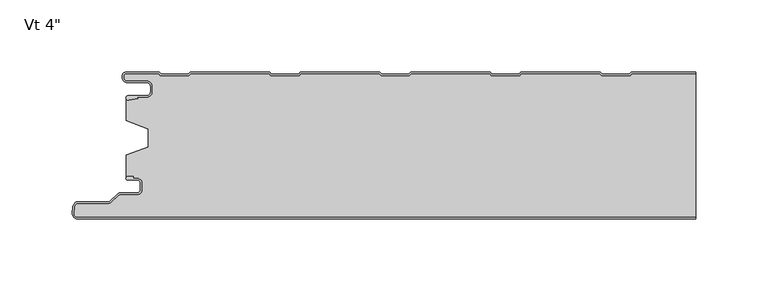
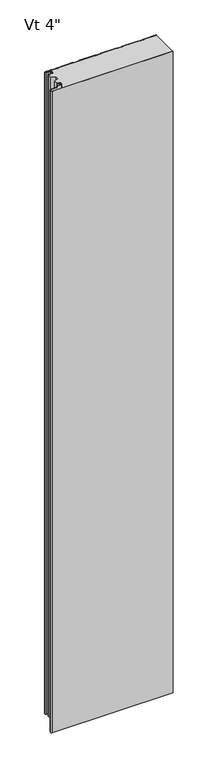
"""IFC4 building model written with IfcOpenShell, lengths in millimetres: plate geometry."""

from ifc_helpers import new_model, si_unit, point, frame, frame_2d, origin, origin_with_axes, place, context, project, spatial, polyline, circle_curve, trimmed, segment, composite_curve, outline, extrude, source, transform, mapped, element, save
from ifc_brep_helpers import plane_surface, cylinder_surface, revolved_surface, advanced_brep


def plate_7318fa28(model_context):
    return source(origin(), model_context, "Body", "SolidModel", [
        extrude(outline(composite_curve([segment(polyline([(-196.9639401, -1.03e-05), (-173.8991777, -1.03e-05), (-172.6989573, -1.2002307), (-153.8919247, -1.2002307), (-152.6916939, 0.0), (-97.6993404, 0.0), (-96.4991097, -1.2002307), (-77.6920771, -1.2002307), (-76.4918463, 0.0), (-21.5159312, 0.0), (-20.3157004, -1.2002307), (-1.5086678, -1.2002307), (-0.3084371, 0.0), (54.667478, 0.0), (55.8677088, -1.2002307), (74.6747414, -1.2002307), (75.8749721, 0.0), (130.8673256, 0.0), (132.0675564, -1.2002307), (150.874589, -1.2002307), (152.0748197, 0.0), (196.6137654, 0.0), (196.6137654, -1.0), (152.4890333, -1.0), (151.2888025, -2.2002307), (131.6533428, -2.2002307), (130.4531121, -1.0), (76.2891857, -1.0), (75.0889549, -2.2002307), (55.4534952, -2.2002307), (54.2532645, -1.0), (0.1057765, -1.0), (-1.0944543, -2.2002307), (-20.729914, -2.2002307), (-21.9301447, -1.0), (-76.0776328, -1.0), (-77.2778635, -2.2002307), (-96.9133232, -2.2002307), (-98.113554, -1.0), (-152.2774804, -1.0), (-153.4777111, -2.2002307), (-173.1131708, -2.2002307), (-174.3133912, -1.0000103), (-196.9839768, -1.0000103)]), True, "CONTINUOUS"), segment(trimmed(circle_curve(frame_2d((-197.0487242, -2.3984828)), 1.3999705), [point((-196.9839768, -1.0000103))], [point((-198.4486947, -2.3984828))], True, "CARTESIAN"), True, "CONTINUOUS"), segment(polyline([(-198.4486947, -2.3984828), (-198.4486947, -3.9515996)]), True, "CONTINUOUS"), segment(trimmed(circle_curve(frame_2d((-196.2386394, -3.9515996)), 2.2100553), [point((-198.4486947, -3.9515996))], [point((-196.2386394, -6.1616549))], True, "CARTESIAN"), True, "CONTINUOUS"), segment(polyline([(-196.2386394, -6.1616549), (-182.7094114, -6.1616549)]), True, "CONTINUOUS"), segment(trimmed(circle_curve(frame_2d((-182.7094114, -9.881641)), 3.7199861), [point((-182.7094114, -6.1616549))], [point((-178.9894252, -9.881641))], False, "CARTESIAN"), True, "CONTINUOUS"), segment(polyline([(-178.9894252, -9.881641), (-178.9894252, -13.5282389)]), True, "CONTINUOUS"), segment(trimmed(circle_curve(frame_2d((-182.7094216, -13.5282389)), 3.7199964), [point((-178.9894252, -13.5282389))], [point((-182.7094216, -17.2482353))], False, "CARTESIAN"), True, "CONTINUOUS"), segment(polyline([(-182.7094216, -17.2482353), (-189.0545396, -17.2482353), (-188.8919338, -18.1704184), (-195.1454629, -19.2730843)]), True, "CONTINUOUS"), segment(trimmed(circle_curve(frame_2d((-195.4101029, -17.7722363)), 1.524001), [point((-195.1454629, -19.2730843))], [point((-195.4101029, -16.2482353))], False, "CARTESIAN"), True, "CONTINUOUS"), segment(polyline([(-195.4101029, -16.2482353), (-182.7094216, -16.2482353)]), True, "CONTINUOUS"), segment(trimmed(circle_curve(frame_2d((-182.7094216, -13.5282389)), 2.7199964), [point((-182.7094216, -16.2482353))], [point((-179.9894252, -13.5282389))], True, "CARTESIAN"), True, "CONTINUOUS"), segment(polyline([(-179.9894252, -13.5282389), (-179.9894252, -9.881641)]), True, "CONTINUOUS"), segment(trimmed(circle_curve(frame_2d((-182.7094114, -9.881641)), 2.7199861), [point((-179.9894252, -9.881641))], [point((-182.7094114, -7.1616549))], True, "CARTESIAN"), True, "CONTINUOUS"), segment(polyline([(-182.7094114, -7.1616549), (-196.2386394, -7.1616549)]), True, "CONTINUOUS"), segment(trimmed(circle_curve(frame_2d((-196.2386394, -3.9515996)), 3.2100553), [point((-196.2386394, -7.1616549))], [point((-199.4486948, -3.9515996))], False, "CARTESIAN"), True, "CONTINUOUS"), segment(polyline([(-199.4486948, -3.9515996), (-199.4486947, -2.3984828)]), True, "CONTINUOUS"), segment(trimmed(circle_curve(frame_2d((-197.0487242, -2.3984828)), 2.3999705), [point((-199.4486947, -2.3984828))], [point((-196.9639401, -1.03e-05))], False, "CARTESIAN"), True, "CONTINUOUS")], self_intersect=False)), origin_with_axes(), (0.0, 0.0, 1.0), 2400.0),
        extrude(outline(composite_curve([segment(polyline([(-195.7329864, -72.1060333), (-191.9745857, -72.1060333), (-191.9745857, -73.5045169), (-189.2754693, -73.5045169)]), True, "CONTINUOUS"), segment(trimmed(circle_curve(frame_2d((-189.2754693, -76.8545168)), 3.3499999), [point((-189.2754693, -73.5045169))], [point((-185.9254694, -76.8545168))], False, "CARTESIAN"), True, "CONTINUOUS"), segment(polyline([(-185.9254694, -76.8545168), (-185.9254694, -81.2545166)]), True, "CONTINUOUS"), segment(trimmed(circle_curve(frame_2d((-189.2754693, -81.2545166)), 3.3499999), [point((-185.9254694, -81.2545166))], [point((-189.2754693, -84.6045165))], False, "CARTESIAN"), True, "CONTINUOUS"), segment(polyline([(-189.2754693, -84.6045165), (-201.0863815, -84.6045165)]), True, "CONTINUOUS"), segment(trimmed(circle_curve(frame_2d((-201.0863815, -86.3045165)), 1.7), [point((-201.0863815, -84.6045165))], [point((-202.288463, -85.102435))], True, "CARTESIAN"), True, "CONTINUOUS"), segment(polyline([(-202.288463, -85.102435), (-207.029022, -89.8429939)]), True, "CONTINUOUS"), segment(trimmed(circle_curve(frame_2d((-208.8674996, -88.0045163)), 2.6), [point((-207.029022, -89.8429939))], [point((-208.8674996, -90.6045163))], False, "CARTESIAN"), True, "CONTINUOUS"), segment(polyline([(-208.8674996, -90.6045163), (-229.8742569, -90.6045163)]), True, "CONTINUOUS"), segment(trimmed(circle_curve(frame_2d((-229.8742569, -93.3045163)), 2.7), [point((-229.8742569, -90.6045163))], [point((-232.563964, -93.0689835))], True, "CARTESIAN"), True, "CONTINUOUS"), segment(polyline([(-232.563964, -93.0689835), (-232.9796492, -97.8159721)]), True, "CONTINUOUS"), segment(trimmed(circle_curve(frame_2d((-230.4287597, -98.0393488)), 2.5606512), [point((-232.9796492, -97.8159721))], [point((-230.4287597, -100.6))], True, "CARTESIAN"), True, "CONTINUOUS"), segment(polyline([(-230.4287597, -100.6), (196.6137654, -100.6), (196.6137654, -101.6), (-230.4287597, -101.6)]), True, "CONTINUOUS"), segment(trimmed(circle_curve(frame_2d((-230.4287597, -98.0393488)), 3.5606512), [point((-230.4287597, -101.6))], [point((-233.975837, -97.7287377))], False, "CARTESIAN"), True, "CONTINUOUS"), segment(polyline([(-233.975837, -97.7287377), (-233.5601518, -92.9817491)]), True, "CONTINUOUS"), segment(trimmed(circle_curve(frame_2d((-229.8742569, -93.3045163)), 3.7), [point((-233.5601518, -92.9817491))], [point((-229.8742569, -89.6045163))], False, "CARTESIAN"), True, "CONTINUOUS"), segment(polyline([(-229.8742569, -89.6045163), (-208.8674996, -89.6045163)]), True, "CONTINUOUS"), segment(trimmed(circle_curve(frame_2d((-208.8674996, -88.0045163)), 1.6), [point((-208.8674996, -89.6045163))], [point((-207.7361288, -89.1358871))], True, "CARTESIAN"), True, "CONTINUOUS"), segment(polyline([(-207.7361288, -89.1358871), (-202.9955698, -84.3953282)]), True, "CONTINUOUS"), segment(trimmed(circle_curve(frame_2d((-201.0863815, -86.3045165)), 2.7), [point((-202.9955698, -84.3953282))], [point((-201.0863815, -83.6045165))], False, "CARTESIAN"), True, "CONTINUOUS"), segment(polyline([(-201.0863815, -83.6045165), (-189.2754693, -83.6045165)]), True, "CONTINUOUS"), segment(trimmed(circle_curve(frame_2d((-189.2754693, -81.2545166)), 2.3499999), [point((-189.2754693, -83.6045165))], [point((-186.9254694, -81.2545166))], True, "CARTESIAN"), True, "CONTINUOUS"), segment(polyline([(-186.9254694, -81.2545166), (-186.9254694, -76.8545168)]), True, "CONTINUOUS"), segment(trimmed(circle_curve(frame_2d((-189.2754693, -76.8545168)), 2.3499999), [point((-186.9254694, -76.8545168))], [point((-189.2754693, -74.5045169))], True, "CARTESIAN"), True, "CONTINUOUS"), segment(polyline([(-189.2754693, -74.5045169), (-195.7947883, -74.5045169)]), True, "CONTINUOUS"), segment(trimmed(circle_curve(frame_2d((-195.734501, -73.3060323)), 1.2), [point((-195.7947883, -74.5045169))], [point((-195.7329864, -72.1060333))], False, "CARTESIAN"), True, "CONTINUOUS")], self_intersect=False)), origin_with_axes(), (0.0, 0.0, 1.0), 2400.0),
        advanced_brep(
        [(-189.2754693, -73.5045169, 2400.0), (-185.9254694, -76.8545168, 2400.0), (-185.9254694, -81.2545166, 2400.0), (-189.2754693, -84.6045165, 2400.0), (-201.0863815, -84.6045165, 2400.0), (-202.288463, -85.102435, 2400.0), (-207.029022, -89.8429939, 2400.0), (-208.8674996, -90.6045163, 2400.0), (-229.8742569, -90.6045163, 2400.0), (-232.563964, -93.0689835, 2400.0), (-232.9796492, -97.8159721, 2400.0), (-230.4287597, -100.6, 2400.0), (196.6137654, -100.6, 2400.0), (196.6137654, -1.0, 2400.0), (152.4890333, -1.0, 2400.0), (151.2888025, -2.2002307, 2400.0), (131.6533428, -2.2002307, 2400.0), (130.4531121, -1.0, 2400.0), (76.2891857, -1.0, 2400.0), (75.0889549, -2.2002307, 2400.0), (55.4534952, -2.2002307, 2400.0), (54.2532645, -1.0, 2400.0), (0.1057765, -1.0, 2400.0), (-1.0944543, -2.2002307, 2400.0), (-20.729914, -2.2002307, 2400.0), (-21.9301447, -1.0, 2400.0), (-76.0776328, -1.0, 2400.0), (-77.2778635, -2.2002307, 2400.0), (-96.9133232, -2.2002307, 2400.0), (-98.113554, -1.0, 2400.0), (-152.2774804, -1.0, 2400.0), (-153.4777111, -2.2002307, 2400.0), (-173.1131708, -2.2002307, 2400.0), (-174.3133912, -1.0000103, 2400.0), (-196.9839768, -1.0000103, 2400.0), (-198.4486947, -2.3984828, 2400.0), (-198.4486947, -3.9515996, 2400.0), (-196.2386394, -6.1616549, 2400.0), (-182.7094114, -6.1616549, 2400.0), (-178.9894252, -9.881641, 2400.0), (-178.9894252, -13.5282389, 2400.0), (-182.7094216, -17.2482353, 2400.0), (-189.0545396, -17.2482353, 2400.0), (-188.8919338, -18.1704184, 2400.0), (-195.1454629, -19.2730843, 2400.0), (-196.5999998, -18.7244571, 2400.0), (-196.5999998, -33.5050578, 2400.0), (-181.6020466, -39.1301019, 2400.0), (-181.588281, -51.7686066, 2400.0), (-196.5999998, -57.3928342, 2400.0), (-196.5999998, -72.4748213, 2400.0), (-195.7329864, -72.1060333, 2400.0), (-191.9745857, -72.1060333, 2400.0), (-191.9745857, -73.5045169, 2400.0), (-189.2754693, -73.5045169, 0.0), (-191.9745857, -73.5045169, 0.0), (-191.9745857, -72.1060333, 0.0), (-195.7329864, -72.1060333, 0.0), (-196.5999998, -72.4748213, 0.0), (-196.5999998, -57.3928342, 0.0), (-181.6020466, -51.7686066, 0.0), (-181.588281, -39.1301019, 0.0), (-196.5999998, -33.5050578, 0.0), (-196.5999998, -18.7244571, 0.0), (-195.1454629, -19.2730843, 0.0), (-188.8919338, -18.1704184, 0.0), (-189.0545396, -17.2482353, 0.0), (-182.7094216, -17.2482353, 0.0), (-178.9894252, -13.5282389, 0.0), (-178.9894252, -9.881641, 0.0), (-182.7094114, -6.1616549, 0.0), (-196.2386394, -6.1616549, 0.0), (-198.4486948, -3.9515996, 0.0), (-198.4486947, -2.3984828, 0.0), (-196.9839768, -1.0000103, 0.0), (-174.3133912, -1.0000103, 0.0), (-173.1131708, -2.2002307, 0.0), (-153.4777111, -2.2002307, 0.0), (-152.2774804, -1.0, 0.0), (-98.113554, -1.0, 0.0), (-96.9133232, -2.2002307, 0.0), (-77.2778635, -2.2002307, 0.0), (-76.0776328, -1.0, 0.0), (-21.9301447, -1.0, 0.0), (-20.729914, -2.2002307, 0.0), (-1.0944543, -2.2002307, 0.0), (0.1057765, -1.0, 0.0), (54.2532645, -1.0, 0.0), (55.4534952, -2.2002307, 0.0), (75.0889549, -2.2002307, 0.0), (76.2891857, -1.0, 0.0), (130.4531121, -1.0, 0.0), (131.6533428, -2.2002307, 0.0), (151.2888025, -2.2002307, 0.0), (152.4890333, -1.0, 0.0), (196.6137654, -1.0, 0.0), (196.6137654, -100.6, 0.0), (-230.4287597, -100.6, 0.0), (-232.9796492, -97.8159721, 0.0), (-232.563964, -93.0689835, 0.0), (-229.8742569, -90.6045163, 0.0), (-208.8674996, -90.6045163, 0.0), (-207.029022, -89.8429939, 0.0), (-202.288463, -85.102435, 0.0), (-201.0863815, -84.6045165, 0.0), (-189.2754693, -84.6045165, 0.0), (-185.9254694, -81.2545166, 0.0), (-185.9254694, -76.8545168, 0.0)],
        [
            (0, 1, circle_curve(frame((-189.2754693, -76.8545168, 2400.0), z_axis=(0.0, 0.0, -1.0), x_axis=(-1.0, 0.0, 0.0)), 3.3499999)),
            (1, 2),
            (2, 3, circle_curve(frame((-189.2754693, -81.2545166, 2400.0), z_axis=(0.0, 0.0, -1.0), x_axis=(-1.0, 0.0, 0.0)), 3.3499999)),
            (3, 4),
            (4, 5, circle_curve(frame((-201.0863815, -86.3045165, 2400.0), z_axis=(0.0, 0.0, 1.0), x_axis=(-1.0, 0.0, 0.0)), 1.7)),
            (5, 6),
            (6, 7, circle_curve(frame((-208.8674996, -88.0045163, 2400.0), z_axis=(0.0, 0.0, -1.0), x_axis=(-1.0, 0.0, 0.0)), 2.6)),
            (7, 8),
            (8, 9, circle_curve(frame((-229.8742569, -93.3045163, 2400.0), z_axis=(0.0, 0.0, 1.0), x_axis=(-1.0, 0.0, 0.0)), 2.7)),
            (9, 10),
            (10, 11, circle_curve(frame((-230.4287597, -98.0393488, 2400.0), z_axis=(0.0, 0.0, 1.0), x_axis=(-1.0, 0.0, 0.0)), 2.5606512)),
            (11, 12),
            (12, 13),
            (13, 14),
            (14, 15),
            (15, 16),
            (16, 17),
            (17, 18),
            (18, 19),
            (19, 20),
            (20, 21),
            (21, 22),
            (22, 23),
            (23, 24),
            (24, 25),
            (25, 26),
            (26, 27),
            (27, 28),
            (28, 29),
            (29, 30),
            (30, 31),
            (31, 32),
            (32, 33),
            (33, 34),
            (34, 35, circle_curve(frame((-197.0487242, -2.3984828, 2400.0), z_axis=(0.0, 0.0, 1.0), x_axis=(-1.0, 0.0, 0.0)), 1.3999705)),
            (35, 36),
            (36, 37, circle_curve(frame((-196.2386394, -3.9515996, 2400.0), z_axis=(0.0, 0.0, 1.0), x_axis=(-1.0, 0.0, 0.0)), 2.2100553)),
            (37, 38),
            (38, 39, circle_curve(frame((-182.7094114, -9.881641, 2400.0), z_axis=(0.0, 0.0, -1.0), x_axis=(-1.0, 0.0, 0.0)), 3.7199861)),
            (39, 40),
            (40, 41, circle_curve(frame((-182.7094216, -13.5282389, 2400.0), z_axis=(0.0, 0.0, -1.0), x_axis=(-1.0, 0.0, 0.0)), 3.7199964)),
            (41, 42),
            (42, 43),
            (43, 44),
            (44, 45, circle_curve(frame((-195.4101029, -17.7722363, 2400.0), z_axis=(0.0, 0.0, -1.0), x_axis=(-1.0, 0.0, 0.0)), 1.524001)),
            (45, 46),
            (46, 47),
            (47, 48),
            (48, 49),
            (49, 50),
            (50, 51, circle_curve(frame((-195.734501, -73.3060323, 2400.0), z_axis=(0.0, 0.0, -1.0), x_axis=(-1.0, 0.0, 0.0)), 1.2)),
            (51, 52),
            (52, 53),
            (53, 0),
            (54, 55),
            (55, 56),
            (56, 57),
            (57, 58, circle_curve(frame((-195.734501, -73.3060323, 0.0), z_axis=(0.0, 0.0, 1.0), x_axis=(-1.0, 0.0, 0.0)), 1.2)),
            (58, 59),
            (59, 60),
            (60, 61),
            (61, 62),
            (62, 63),
            (63, 64, circle_curve(frame((-195.4101029, -17.7722363, 0.0), z_axis=(0.0, 0.0, 1.0), x_axis=(-1.0, 0.0, 0.0)), 1.524001)),
            (64, 65),
            (65, 66),
            (66, 67),
            (67, 68, circle_curve(frame((-182.7094216, -13.5282389, 0.0), z_axis=(0.0, 0.0, 1.0), x_axis=(-1.0, 0.0, 0.0)), 3.7199964)),
            (68, 69),
            (69, 70, circle_curve(frame((-182.7094114, -9.881641, 0.0), z_axis=(0.0, 0.0, 1.0), x_axis=(-1.0, 0.0, 0.0)), 3.7199861)),
            (70, 71),
            (71, 72, circle_curve(frame((-196.2386394, -3.9515996, 0.0), z_axis=(0.0, 0.0, -1.0), x_axis=(-1.0, 0.0, 0.0)), 2.2100553)),
            (72, 73),
            (73, 74, circle_curve(frame((-197.0487242, -2.3984828, 0.0), z_axis=(0.0, 0.0, -1.0), x_axis=(-1.0, 0.0, 0.0)), 1.3999705)),
            (74, 75),
            (75, 76),
            (76, 77),
            (77, 78),
            (78, 79),
            (79, 80),
            (80, 81),
            (81, 82),
            (82, 83),
            (83, 84),
            (84, 85),
            (85, 86),
            (86, 87),
            (87, 88),
            (88, 89),
            (89, 90),
            (90, 91),
            (91, 92),
            (92, 93),
            (93, 94),
            (94, 95),
            (95, 96),
            (96, 97),
            (97, 98, circle_curve(frame((-230.4287597, -98.0393488, 0.0), z_axis=(0.0, 0.0, -1.0), x_axis=(-1.0, 0.0, 0.0)), 2.5606512)),
            (98, 99),
            (99, 100, circle_curve(frame((-229.8742569, -93.3045163, 0.0), z_axis=(0.0, 0.0, -1.0), x_axis=(-1.0, 0.0, 0.0)), 2.7)),
            (100, 101),
            (101, 102, circle_curve(frame((-208.8674996, -88.0045163, 0.0), z_axis=(0.0, 0.0, 1.0), x_axis=(-1.0, 0.0, 0.0)), 2.6)),
            (102, 103),
            (103, 104, circle_curve(frame((-201.0863815, -86.3045165, 0.0), z_axis=(0.0, 0.0, -1.0), x_axis=(-1.0, 0.0, 0.0)), 1.7)),
            (104, 105),
            (105, 106, circle_curve(frame((-189.2754693, -81.2545166, 0.0), z_axis=(0.0, 0.0, 1.0), x_axis=(-1.0, 0.0, 0.0)), 3.3499999)),
            (106, 107),
            (107, 54, circle_curve(frame((-189.2754693, -76.8545168, 0.0), z_axis=(0.0, 0.0, 1.0), x_axis=(-1.0, 0.0, 0.0)), 3.3499999)),
            (48, 60),
            (59, 49),
            (58, 50),
            (2, 106),
            (105, 3),
            (1, 107),
            (104, 4),
            (103, 5),
            (6, 102),
            (101, 7),
            (100, 8),
            (99, 9),
            (10, 98),
            (97, 11),
            (96, 12),
            (57, 51),
            (52, 56),
            (55, 53),
            (54, 0),
            (38, 70),
            (69, 39),
            (37, 71),
            (36, 72),
            (35, 73),
            (34, 74),
            (33, 75),
            (32, 76),
            (31, 77),
            (30, 78),
            (29, 79),
            (28, 80),
            (27, 81),
            (26, 82),
            (25, 83),
            (24, 84),
            (23, 85),
            (22, 86),
            (21, 87),
            (20, 88),
            (19, 89),
            (18, 90),
            (17, 91),
            (16, 92),
            (15, 93),
            (14, 94),
            (13, 95),
            (46, 62),
            (61, 47),
            (45, 63),
            (44, 64),
            (43, 65),
            (42, 66),
            (41, 67),
            (40, 68),
        ],
        [
            plane_surface(frame((336.2637657, -100.6, 2400.0), z_axis=(0.0, 0.0, 1.0), x_axis=(0.0, -1.0, 0.0))),
            plane_surface(frame((336.2637657, -100.6, 0.0), z_axis=(0.0, 0.0, -1.0), x_axis=(0.0, -1.0, 0.0))),
            plane_surface(frame((-196.5999998, -57.3928342, 2400.0), z_axis=(-0.3511231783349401, 0.9363292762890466, 0.0), x_axis=(0.0, 0.0, -1.0))),
            plane_surface(frame((-196.5999998, -72.4748213, 2400.0), z_axis=(-1.0, 0.0, 0.0), x_axis=(0.0, 0.0, -1.0))),
            revolved_surface(polyline([(-192.6254692, -81.2545166, 0.0), (-192.6254692, -81.2545166, 2400.0)]), (-189.2754693, -81.2545166, 2400.0), (0.0, 0.0, -1.0)),
            plane_surface(frame((-185.9254694, -81.2545166, 2400.0), z_axis=(-1.0, 0.0, 0.0), x_axis=(0.0, 0.0, -1.0))),
            plane_surface(frame((-201.0863815, -84.6045165, 2400.0), z_axis=(0.0, 1.0, 0.0), x_axis=(0.0, 0.0, -1.0))),
            cylinder_surface(frame((-201.0863815, -86.3045165, 2400.0), z_axis=(0.0, 0.0, 1.0), x_axis=(-1.0, 0.0, 0.0)), 1.7),
            revolved_surface(polyline([(-211.4674996, -88.0045163, 0.0), (-211.4674996, -88.0045163, 2400.0)]), (-208.8674996, -88.0045163, 2400.0), (0.0, 0.0, -1.0)),
            plane_surface(frame((-207.029022, -89.8429939, 2400.0), z_axis=(-0.7071067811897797, 0.7071067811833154, 0.0), x_axis=(0.0, 0.0, -1.0))),
            plane_surface(frame((-229.8742569, -90.6045163, 2400.0), z_axis=(0.0, 1.0, 0.0), x_axis=(0.0, 0.0, -1.0))),
            cylinder_surface(frame((-229.8742569, -93.3045163, 2400.0), z_axis=(0.0, 0.0, 1.0), x_axis=(-1.0, 0.0, 0.0)), 2.7),
            cylinder_surface(frame((-230.4287597, -98.0393488, 2400.0), z_axis=(0.0, 0.0, 1.0), x_axis=(-1.0, 0.0, 0.0)), 2.5606512),
            plane_surface(frame((-232.9796492, -97.8159721, 2400.0), z_axis=(-0.9961878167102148, 0.08723436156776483, 0.0), x_axis=(0.0, 0.0, -1.0))),
            plane_surface(frame((824.4519051, -100.6, 2400.0), z_axis=(0.0, -1.0, 0.0), x_axis=(0.0, 0.0, -1.0))),
            revolved_surface(polyline([(-196.93450099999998, -73.3060323, 0.0), (-196.93450099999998, -73.3060323, 2400.0)]), (-195.734501, -73.3060323, 2400.0), (0.0, 0.0, -1.0)),
            plane_surface(frame((-191.9745857, -73.5045169, 2400.0), z_axis=(-1.0, 0.0, 0.0), x_axis=(0.0, 0.0, -1.0))),
            plane_surface(frame((-191.9745857, -72.1060333, 2400.0), z_axis=(0.0, -1.0, 0.0), x_axis=(0.0, 0.0, -1.0))),
            plane_surface(frame((-189.2754693, -73.5045169, 2400.0), z_axis=(0.0, -1.0, 0.0), x_axis=(0.0, 0.0, -1.0))),
            revolved_surface(polyline([(-192.6254692, -76.8545168, 0.0), (-192.6254692, -76.8545168, 2400.0)]), (-189.2754693, -76.8545168, 2400.0), (0.0, 0.0, -1.0)),
            revolved_surface(polyline([(-186.4293975, -9.881641, 0.0), (-186.4293975, -9.881641, 2400.0)]), (-182.7094114, -9.881641, 2400.0), (0.0, 0.0, -1.0)),
            plane_surface(frame((-182.7094114, -6.1616549, 2400.0), z_axis=(0.0, -1.0, 0.0), x_axis=(0.0, 0.0, -1.0))),
            cylinder_surface(frame((-196.2386394, -3.9515996, 2400.0), z_axis=(0.0, 0.0, 1.0), x_axis=(-1.0, 0.0, 0.0)), 2.2100553),
            plane_surface(frame((-198.4486947, -3.9515996, 2400.0), z_axis=(-1.0, 0.0, 0.0), x_axis=(0.0, 0.0, -1.0))),
            cylinder_surface(frame((-197.0487242, -2.3984828, 2400.0), z_axis=(0.0, 0.0, 1.0), x_axis=(-1.0, 0.0, 0.0)), 1.3999705),
            plane_surface(frame((-196.9839768, -1.0000103, 2400.0), z_axis=(0.0, 1.0, 0.0), x_axis=(0.0, 0.0, -1.0))),
            plane_surface(frame((-174.3133912, -1.0000103, 2400.0), z_axis=(0.7071067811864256, 0.7071067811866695, 0.0), x_axis=(0.0, 0.0, -1.0))),
            plane_surface(frame((-163.295441, -2.2002307, 2400.0), z_axis=(0.0, 1.0, 0.0), x_axis=(0.0, 0.0, -1.0))),
            plane_surface(frame((-153.4777111, -2.2002307, 2400.0), z_axis=(-0.7071067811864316, 0.7071067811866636, 0.0), x_axis=(0.0, 0.0, -1.0))),
            plane_surface(frame((-152.2774804, -1.0, 2400.0), z_axis=(0.0, 1.0, 0.0), x_axis=(0.0, 0.0, -1.0))),
            plane_surface(frame((-98.113554, -1.0, 2400.0), z_axis=(0.7071067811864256, 0.7071067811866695, 0.0), x_axis=(0.0, 0.0, -1.0))),
            plane_surface(frame((-87.0955934, -2.2002307, 2400.0), z_axis=(0.0, 1.0, 0.0), x_axis=(0.0, 0.0, -1.0))),
            plane_surface(frame((-77.2778635, -2.2002307, 2400.0), z_axis=(-0.7071067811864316, 0.7071067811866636, 0.0), x_axis=(0.0, 0.0, -1.0))),
            plane_surface(frame((-76.0776328, -1.0, 2400.0), z_axis=(0.0, 1.0, 0.0), x_axis=(0.0, 0.0, -1.0))),
            plane_surface(frame((-21.9301447, -1.0, 2400.0), z_axis=(0.7071067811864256, 0.7071067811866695, 0.0), x_axis=(0.0, 0.0, -1.0))),
            plane_surface(frame((-10.9121841, -2.2002307, 2400.0), z_axis=(0.0, 1.0, 0.0), x_axis=(0.0, 0.0, -1.0))),
            plane_surface(frame((-1.0944543, -2.2002307, 2400.0), z_axis=(-0.7071067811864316, 0.7071067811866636, 0.0), x_axis=(0.0, 0.0, -1.0))),
            plane_surface(frame((0.1057765, -1.0, 2400.0), z_axis=(0.0, 1.0, 0.0), x_axis=(0.0, 0.0, -1.0))),
            plane_surface(frame((54.2532645, -1.0, 2400.0), z_axis=(0.7071067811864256, 0.7071067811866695, 0.0), x_axis=(0.0, 0.0, -1.0))),
            plane_surface(frame((65.2712251, -2.2002307, 2400.0), z_axis=(0.0, 1.0, 0.0), x_axis=(0.0, 0.0, -1.0))),
            plane_surface(frame((75.0889549, -2.2002307, 2400.0), z_axis=(-0.7071067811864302, 0.7071067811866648, 0.0), x_axis=(0.0, 0.0, -1.0))),
            plane_surface(frame((76.2891857, -1.0, 2400.0), z_axis=(0.0, 1.0, 0.0), x_axis=(0.0, 0.0, -1.0))),
            plane_surface(frame((130.4531121, -1.0, 2400.0), z_axis=(0.7071067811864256, 0.7071067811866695, 0.0), x_axis=(0.0, 0.0, -1.0))),
            plane_surface(frame((141.4710727, -2.2002307, 2400.0), z_axis=(0.0, 1.0, 0.0), x_axis=(0.0, 0.0, -1.0))),
            plane_surface(frame((151.2888025, -2.2002307, 2400.0), z_axis=(-0.7071067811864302, 0.7071067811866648, 0.0), x_axis=(0.0, 0.0, -1.0))),
            plane_surface(frame((152.4890333, -1.0, 2400.0), z_axis=(0.0, 1.0, 0.0), x_axis=(0.0, 0.0, -1.0))),
            plane_surface(frame((-181.6020466, -39.1301019, 2400.0), z_axis=(-0.35116785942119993, -0.9363125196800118, 0.0), x_axis=(0.0, 0.0, -1.0))),
            plane_surface(frame((-196.5999998, -33.5050578, 2400.0), z_axis=(-1.0, 0.0, 0.0), x_axis=(0.0, 0.0, -1.0))),
            revolved_surface(polyline([(-196.9341039, -17.7722363, 0.0), (-196.9341039, -17.7722363, 2400.0)]), (-195.4101029, -17.7722363, 2400.0), (0.0, 0.0, -1.0)),
            plane_surface(frame((-195.1454629, -19.2730843, 2400.0), z_axis=(-0.17364817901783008, 0.9848077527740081, 0.0), x_axis=(0.0, 0.0, -1.0))),
            plane_surface(frame((-188.8919338, -18.1704184, 2400.0), z_axis=(-0.9848077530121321, -0.17364817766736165, 0.0), x_axis=(0.0, 0.0, -1.0))),
            plane_surface(frame((-189.0545396, -17.2482353, 2400.0), z_axis=(0.0, 1.0, 0.0), x_axis=(0.0, 0.0, -1.0))),
            revolved_surface(polyline([(-186.42941800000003, -13.5282389, 0.0), (-186.42941800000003, -13.5282389, 2400.0)]), (-182.7094216, -13.5282389, 2400.0), (0.0, 0.0, -1.0)),
            plane_surface(frame((-178.9894252, -13.5282389, 2400.0), z_axis=(-1.0, 0.0, 0.0), x_axis=(0.0, 0.0, -1.0))),
            plane_surface(frame((-181.588281, -51.7686066, 2400.0), z_axis=(-1.0, 0.0, 0.0), x_axis=(0.0, 0.0, -1.0))),
            plane_surface(frame((196.6137654, -113.6, 2400.0), z_axis=(1.0, 0.0, 0.0), x_axis=(0.0, 0.0, -1.0))),
        ],
        [
            (0, [[1, 2, 3, 4, 5, 6, 7, 8, 9, 10, 11, 12, 13, 14, 15, 16, 17, 18, 19, 20, 21, 22, 23, 24, 25, 26, 27, 28, 29, 30, 31, 32, 33, 34, 35, 36, 37, 38, 39, 40, 41, 42, 43, 44, 45, 46, 47, 48, 49, 50, 51, 52, 53, 54]]),
            (1, [[55, 56, 57, 58, 59, 60, 61, 62, 63, 64, 65, 66, 67, 68, 69, 70, 71, 72, 73, 74, 75, 76, 77, 78, 79, 80, 81, 82, 83, 84, 85, 86, 87, 88, 89, 90, 91, 92, 93, 94, 95, 96, 97, 98, 99, 100, 101, 102, 103, 104, 105, 106, 107, 108]]),
            (2, [[109, -60, 110, -49]]),
            (3, [[-110, -59, 111, -50]]),
            (4, [[112, -106, 113, -3]]),
            (5, [[114, -107, -112, -2]]),
            (6, [[-113, -105, 115, -4]]),
            (7, [[-115, -104, 116, -5]]),
            (8, [[117, -102, 118, -7]]),
            (9, [[-116, -103, -117, -6]]),
            (10, [[-118, -101, 119, -8]]),
            (11, [[-119, -100, 120, -9]]),
            (12, [[121, -98, 122, -11]]),
            (13, [[-120, -99, -121, -10]]),
            (14, [[-97, 123, -12, -122]]),
            (15, [[-111, -58, 124, -51]]),
            (16, [[125, -56, 126, -53]]),
            (17, [[-124, -57, -125, -52]]),
            (18, [[-126, -55, 127, -54]]),
            (19, [[-127, -108, -114, -1]]),
            (20, [[128, -70, 129, -39]]),
            (21, [[130, -71, -128, -38]]),
            (22, [[131, -72, -130, -37]]),
            (23, [[132, -73, -131, -36]]),
            (24, [[133, -74, -132, -35]]),
            (25, [[134, -75, -133, -34]]),
            (26, [[135, -76, -134, -33]]),
            (27, [[136, -77, -135, -32]]),
            (28, [[137, -78, -136, -31]]),
            (29, [[138, -79, -137, -30]]),
            (30, [[139, -80, -138, -29]]),
            (31, [[140, -81, -139, -28]]),
            (32, [[141, -82, -140, -27]]),
            (33, [[142, -83, -141, -26]]),
            (34, [[143, -84, -142, -25]]),
            (35, [[144, -85, -143, -24]]),
            (36, [[145, -86, -144, -23]]),
            (37, [[146, -87, -145, -22]]),
            (38, [[147, -88, -146, -21]]),
            (39, [[148, -89, -147, -20]]),
            (40, [[149, -90, -148, -19]]),
            (41, [[150, -91, -149, -18]]),
            (42, [[151, -92, -150, -17]]),
            (43, [[152, -93, -151, -16]]),
            (44, [[153, -94, -152, -15]]),
            (45, [[-14, 154, -95, -153]]),
            (46, [[155, -62, 156, -47]]),
            (47, [[157, -63, -155, -46]]),
            (48, [[158, -64, -157, -45]]),
            (49, [[159, -65, -158, -44]]),
            (50, [[160, -66, -159, -43]]),
            (51, [[161, -67, -160, -42]]),
            (52, [[162, -68, -161, -41]]),
            (53, [[-129, -69, -162, -40]]),
            (54, [[-156, -61, -109, -48]]),
            (55, [[-123, -96, -154, -13]]),
        ],
    ),
    ])


if __name__ == "__main__":
    model = new_model("IFC4")
    model_context = context("Model", 3, world=origin())
    ifc_project = project(units=[si_unit("LENGTHUNIT", "METRE", prefix="MILLI")], contexts=[model_context])
    site = spatial("IfcSite", under=ifc_project)
    building = spatial("IfcBuilding", under=site)
    placement = place(None, origin())
    plate_shape = plate_7318fa28(model_context)
    element("IfcPlate", 1, ObjectType="KIP-42-KRHF-R19-CP-Vt-FL_SL : Vt 4\"", at=placement, inside=building, context=model_context, shape_type="MappedRepresentation", body=[
        mapped(plate_shape, transform((0.0, 0.0, 0.0), x_axis=(1.0, 0.0, 0.0), y_axis=(0.0, 1.0, 0.0), z_axis=(0.0, 0.0, 1.0))),
    ])
    save(model, "model.ifc")
